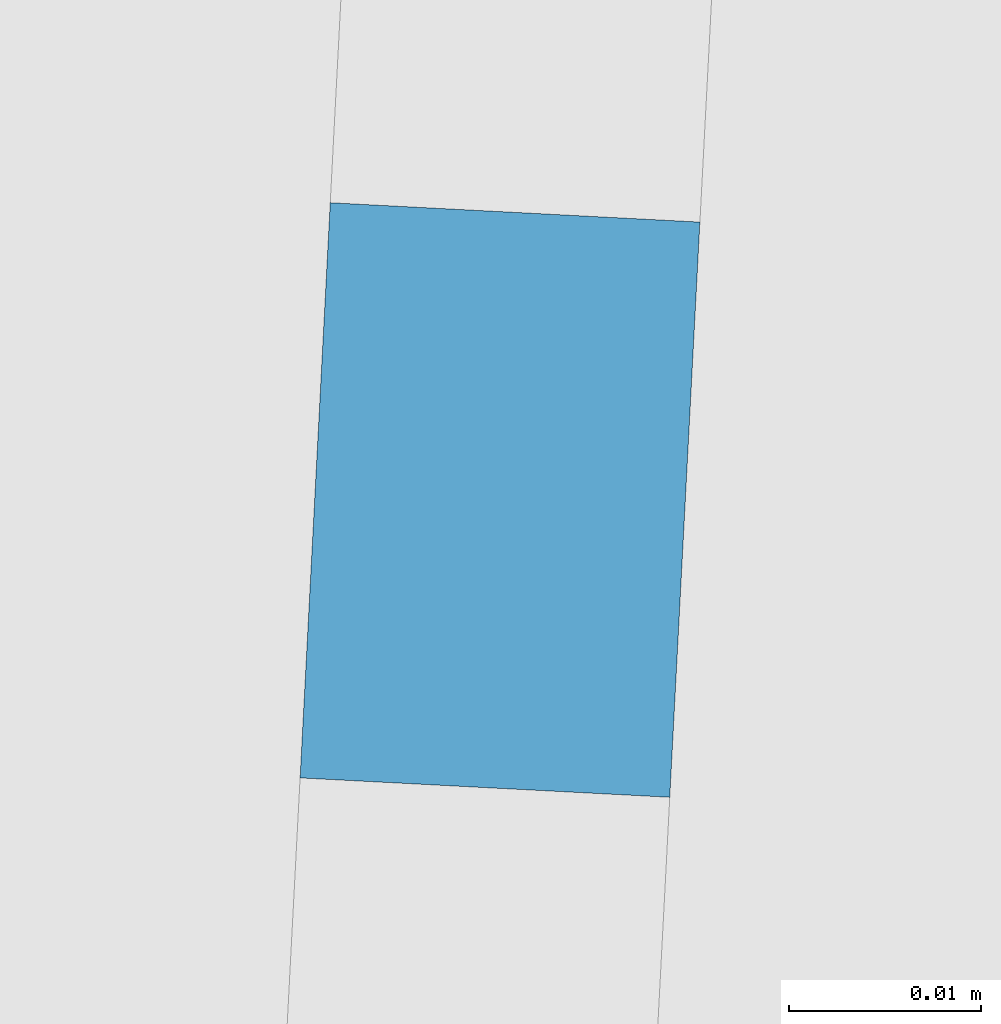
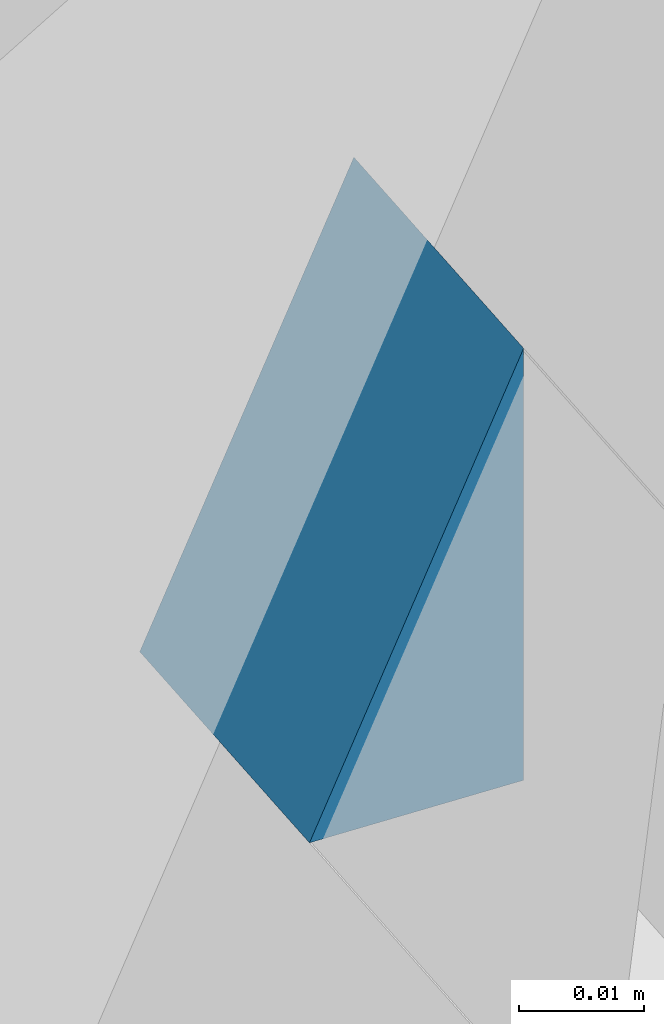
# One storey, part 51 of 82: 1 plate, 1 element without a shape of its own.
"""IFC2X3 building model written with IfcOpenShell, lengths in millimetres."""

from ifc_helpers import new_model, entity, si_unit, converted_unit, derived_unit, direction, frame, origin, place, context, subcontext, project, spatial, polyline, outline, extrude, source, transform, mapped, material, layer, layer_set, layer_usage, type_object, type_shapes, element, aggregate, save


model = new_model("IFC2X3")

# Units and contexts
model_context = context("Model", 3, precision=0.01, world=origin(), true_north=direction((6.12303176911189e-17, 1.0)))
body_context = subcontext(model_context, "Body", "Model", "MODEL_VIEW")
ifc_project = project(units=[si_unit("LENGTHUNIT", "METRE", prefix="MILLI"), si_unit("AREAUNIT", "SQUARE_METRE"), si_unit("VOLUMEUNIT", "CUBIC_METRE"), converted_unit("PLANEANGLEUNIT", "DEGREE", entity("IfcRatioMeasure", 0.0174532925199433), si_unit("PLANEANGLEUNIT", "RADIAN"), dimensions=[0, 0, 0, 0, 0, 0, 0]), si_unit("MASSUNIT", "GRAM", prefix="KILO"), derived_unit("MASSDENSITYUNIT", [(si_unit("MASSUNIT", "GRAM", prefix="KILO"), 1), (si_unit("LENGTHUNIT", "METRE"), -3)]), si_unit("TIMEUNIT", "SECOND"), si_unit("FREQUENCYUNIT", "HERTZ"), si_unit("THERMODYNAMICTEMPERATUREUNIT", "DEGREE_CELSIUS"), derived_unit("THERMALTRANSMITTANCEUNIT", [(si_unit("MASSUNIT", "GRAM", prefix="KILO"), 1), (si_unit("THERMODYNAMICTEMPERATUREUNIT", "KELVIN"), -1), (si_unit("TIMEUNIT", "SECOND"), -3)]), derived_unit("VOLUMETRICFLOWRATEUNIT", [(si_unit("LENGTHUNIT", "METRE"), 3), (si_unit("TIMEUNIT", "SECOND"), -1)]), si_unit("ELECTRICCURRENTUNIT", "AMPERE"), si_unit("ELECTRICVOLTAGEUNIT", "VOLT"), si_unit("POWERUNIT", "WATT"), si_unit("FORCEUNIT", "NEWTON", prefix="KILO"), si_unit("ILLUMINANCEUNIT", "LUX"), si_unit("LUMINOUSFLUXUNIT", "LUMEN"), si_unit("LUMINOUSINTENSITYUNIT", "CANDELA"), derived_unit("USERDEFINED", [(si_unit("MASSUNIT", "GRAM", prefix="KILO"), -1), (si_unit("LENGTHUNIT", "METRE"), -2), (si_unit("TIMEUNIT", "SECOND"), 3), (si_unit("LUMINOUSFLUXUNIT", "LUMEN"), 1)]), derived_unit("LINEARVELOCITYUNIT", [(si_unit("LENGTHUNIT", "METRE"), 1), (si_unit("TIMEUNIT", "SECOND"), -1)]), si_unit("PRESSUREUNIT", "PASCAL"), derived_unit("USERDEFINED", [(si_unit("LENGTHUNIT", "METRE"), -2), (si_unit("MASSUNIT", "GRAM", prefix="KILO"), 1), (si_unit("TIMEUNIT", "SECOND"), -2)])], contexts=[model_context])

# Site, building, storey
site_placement = place(None, origin())
site = spatial("IfcSite", under=ifc_project, at=site_placement, Name="表面", CompositionType="ELEMENT")
building_placement = place(site_placement, origin())
building = spatial("IfcBuilding", under=site, at=building_placement, CompositionType="ELEMENT")
storey_placement = place(building_placement, origin())
storey = spatial("IfcBuildingStorey", under=building, at=storey_placement, Name="1F", CompositionType="ELEMENT", Elevation=0.0)

# Curtain wall, plate
curtain_wall_type = type_object("IfcCurtainWallType", Name="幕墙系统:1450 x 2100mm", PredefinedType="NOTDEFINED")
curtain_wall_placement = place(storey_placement, origin())
curtain_wall = element("IfcCurtainWall", 1, at=curtain_wall_placement, inside=storey, type_object=curtain_wall_type, Name="幕墙系统:1450 x 2100mm", ObjectType="幕墙系统:1450 x 2100mm")
ifc_material = material(Name="<Unnamed>")
ifc_layer = layer(ifc_material, 30.0)
ifc_layer_set = layer_set([ifc_layer], Name="幕墙系统:1450 x 2100mm")
ifc_layer_usage = layer_usage(ifc_layer_set, "AXIS3", "POSITIVE", 0.0)
plate_type = type_object("IfcPlateType", Name="玻璃", PredefinedType="CURTAIN_PANEL", material=ifc_layer_set)
shared_shape = source(origin(), body_context, "Body", "SweptSolid", [
    extrude(outline(polyline([(-18.1611741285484, -5.84792145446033), (28.326105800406, -5.84792145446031), (-10.1649316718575, 11.6958429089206), (-18.1611741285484, -5.84792145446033)])), frame((3.21335564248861, -15.0, 14.1002113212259), z_axis=(0.0, 1.0, 0.0), x_axis=(0.414739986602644, 0.0, 0.909939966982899)), (0.0, 0.0, 1.0), 30.0),
])
type_shapes(plate_type, [shared_shape])
plate_placement = place(curtain_wall_placement, frame((-27004.8675178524, 2634.6820833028, 12625.0), z_axis=(0.0, 0.0, 1.0), x_axis=(0.998629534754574, -0.0523359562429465, 0.0)))
plate = element("IfcPlate", 2, at=plate_placement, type_object=plate_type, material=ifc_layer_usage, Name="系统嵌板:玻璃", ObjectType="玻璃", context=body_context, shape_type="MappedRepresentation", body=[
    mapped(shared_shape, transform((0.0, 0.0, 0.0), scale=1.0)),
])
aggregate(curtain_wall, [plate])

save(model, "model.ifc")
